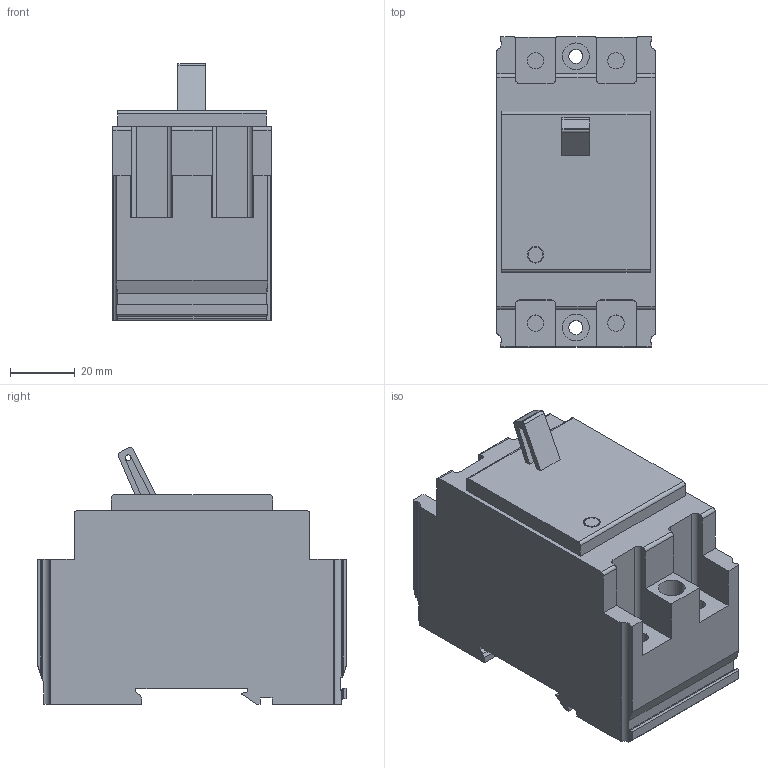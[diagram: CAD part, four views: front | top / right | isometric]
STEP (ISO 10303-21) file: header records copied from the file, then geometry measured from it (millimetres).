
FILE_DESCRIPTION (( 'STEP AP203' ), '1' );
FILE_NAME ('BN Type 2P.STEP', '2018-01-04T01:21:30', ( '' ), ( '' ), 'SwSTEP 2.0', 'SolidWorks 2015', '' );
FILE_SCHEMA (( 'CONFIG_CONTROL_DESIGN' ));
Length unit declared in the file: millimetre
Products named in the file (1): BN Type 2P
Bounding box: 49 x 96 x 79.58 mm (x, y, z)
Volume: 249877.7 mm3; surface area: 33193 mm2
Topology: 1 solids, 1 shells, 173 faces, 486 edges, 323 vertices
Faces by surface type: plane 97, cylinder 76
Entity records: 5704 total; most frequent: CARTESIAN_POINT 1075, ORIENTED_EDGE 972, DIRECTION 946, EDGE_CURVE 486, VERTEX_POINT 323, LINE 322, VECTOR 322, AXIS2_PLACEMENT_3D 312
